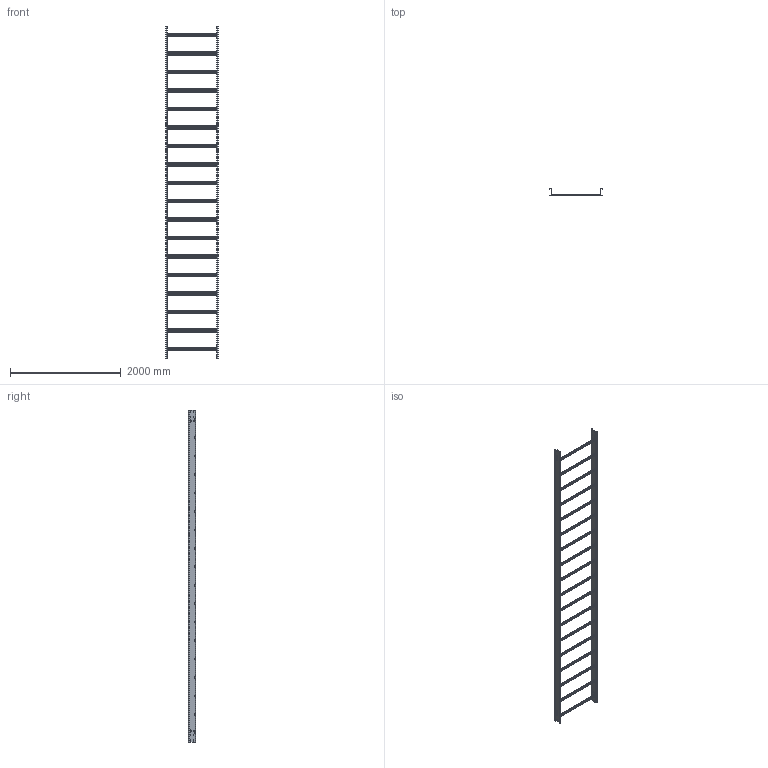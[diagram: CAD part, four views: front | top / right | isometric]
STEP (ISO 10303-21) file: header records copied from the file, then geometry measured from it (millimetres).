
FILE_DESCRIPTION (( 'STEP AP203' ), '1' );
FILE_NAME ('N3 L 900 6m.STEP', '2024-08-29T04:01:42', ( '' ), ( '' ), 'SwSTEP 2.0', 'SolidWorks 2023', '' );
FILE_SCHEMA (( 'CONFIG_CONTROL_DESIGN' ));
Length unit declared in the file: millimetre
Products named in the file (3): N3 L 900 6m; Ladder Rails_Nema  3 - 6m; Ladder Rung_Ladder Rung -  900mm
Assembly tree (20 placements, depth 2):
  N3 L 900 6m
    Ladder Rails_Nema  3 - 6m  x2
    Ladder Rung_Ladder Rung -  900mm  x18
Bounding box: 954 x 131 x 6000 mm (x, y, z)
Volume: 5366890.3 mm3; surface area: 6866738.3 mm2
Topology: 20 solids, 20 shells, 4016 faces, 11172 edges, 7240 vertices
Faces by surface type: plane 3648, cylinder 196, bspline 172
Entity records: 21811 total; most frequent: CARTESIAN_POINT 8123, ORIENTED_EDGE 2852, DIRECTION 2236, EDGE_CURVE 1426, VECTOR 1186, LINE 1186, VERTEX_POINT 932, EDGE_LOOP 632
